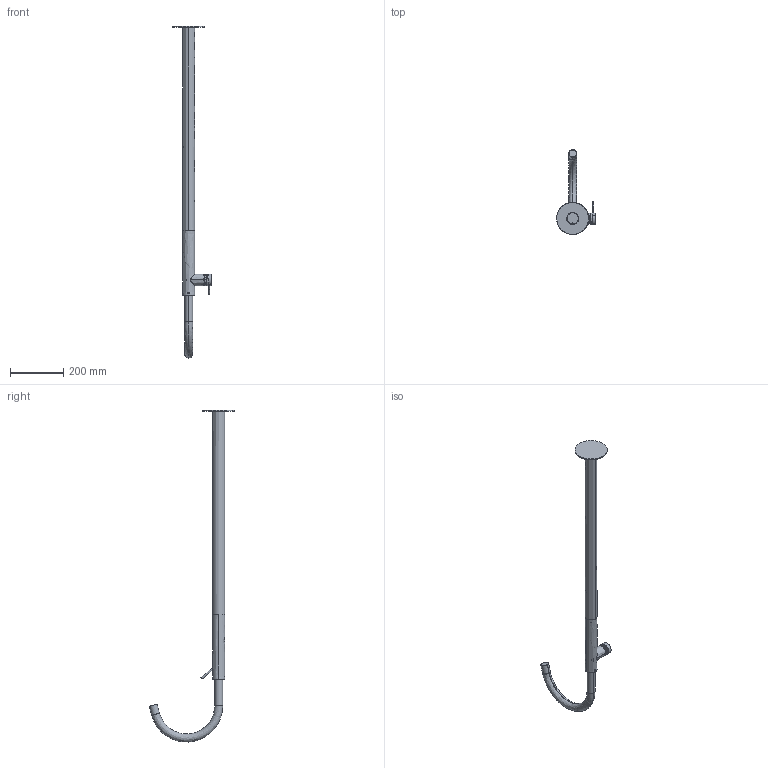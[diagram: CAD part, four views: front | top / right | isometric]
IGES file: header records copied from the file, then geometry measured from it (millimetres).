
Start section:  PTC IGES file: 6959521.igs
Global section: file name: 6959521.igs; native system: Creo Parametric by PTC Inc.; preprocessor: 2022014; author: carloff; organization: Unknown; date: 20251119.112313; units: millimetre
Bounding box: 145.1 x 319.46 x 1242.36 mm (x, y, z)
Surface area: 401980.9 mm2 (no closed solid volume)
Topology: 0 solids, 0 shells, 185 faces, 968 edges, 964 vertices
Faces by surface type: revolution 120, bspline 65
